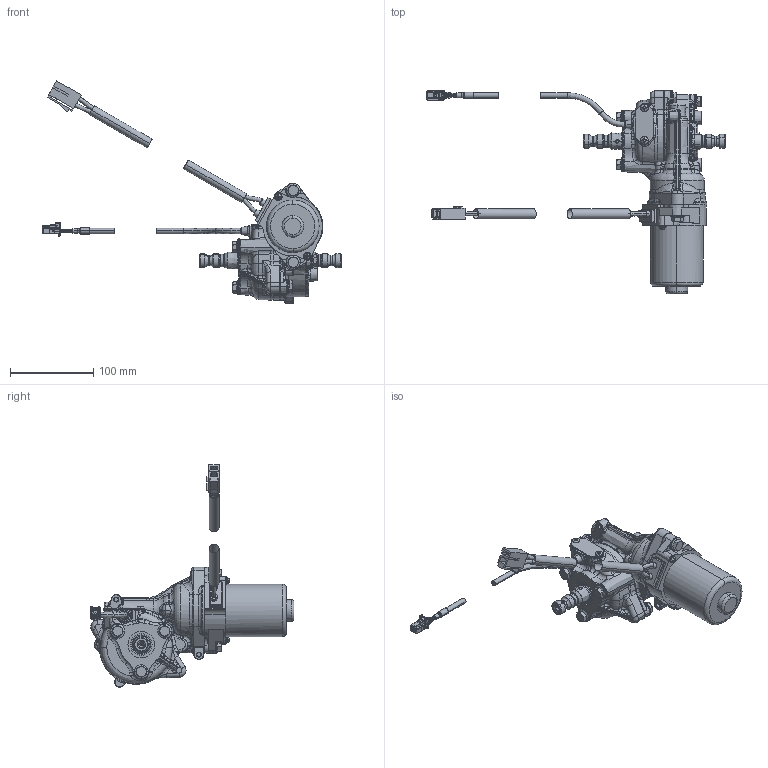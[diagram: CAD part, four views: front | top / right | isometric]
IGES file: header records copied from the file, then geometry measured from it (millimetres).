
Start section: START RECORD GO HERE.
Global section: file name: CA20_ALL-PURPUSE_COLUMN_EPS_170W.igs; native system: DASSAULT SYSTEMES CATIA Version 5-6 Release 2023 - www.3ds.com; preprocessor: V5-6R2023_5.33.5.3.12-06-2024.11.00; author: ARJ; organization: ARJ.co.ltd; date: 20260306.201013; units: millimetre
Bounding box: 357.81 x 244.43 x 266.4 mm (x, y, z)
Volume: 1077779 mm3; surface area: 121721 mm2
Topology: 7 solids, 13 shells, 2786 faces, 6989 edges, 4195 vertices
Faces by surface type: revolution 1293, plane 1043, bspline 450
